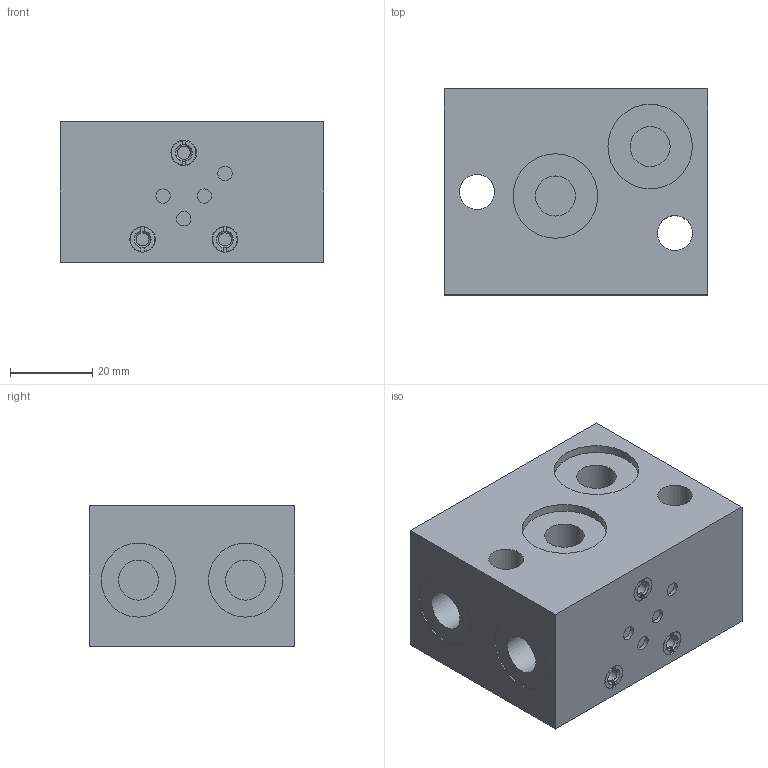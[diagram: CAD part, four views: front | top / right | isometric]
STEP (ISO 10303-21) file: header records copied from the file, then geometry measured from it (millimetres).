
FILE_DESCRIPTION(('Bauteilbeschreibung','HiCAD-Model','HiCAD-STEP-TRANSLATION','Bauteilbeschreibung'),'2;1');
FILE_NAME('C:/_EIGENE_DATEN/DXF_STEP/AL_A03_3808.STP','2008-09-18T14:11:26+00:00',('Konstrukteur'),('Konstrukteur Firma GmbH'),' HiCAD neXt 2007, Step 3.1.1212.3C ','HiCAD neXt 2007','confidential');
FILE_SCHEMA(('AUTOMOTIVE_DESIGN { 1 2 10303 214 0 1 1 1 }'));
Length unit declared in the file: millimetre
Products named in the file (13): AL_A03_3808; AL_A03; D906AF11; D906AF110; D214401D; D214401D0; DIN_13; D214401D1; D214401D2; DIN013; D214401D3; D214401D4; DIN0130
Assembly tree (12 placements, depth 5):
  AL_A03_3808
    AL_A03
      D906AF11
      D906AF110
        D214401D
        D214401D0
          DIN_13
        D214401D1
        D214401D2
          DIN013
        D214401D3
        D214401D4
          DIN0130
Bounding box: 64 x 50 x 34 mm (x, y, z)
Volume: 99587.7 mm3; surface area: 19540.4 mm2
Topology: 7 solids, 7 shells, 126 faces, 322 edges, 218 vertices
Faces by surface type: plane 68, cylinder 31, cone 27
Full cylindrical faces by diameter (mm): 3.141 x3, 3.5 x4, 4 x6, 6.2 x3, 6.5 x3, 8.5 x2, 9.728 x6, 18 x2, 20.5 x2
Entity records: 3883 total; most frequent: CARTESIAN_POINT 870, DIRECTION 628, ORIENTED_EDGE 496, AXIS2_PLACEMENT_3D 266, EDGE_CURVE 248, EDGE_LOOP 190, VERTEX_POINT 184, ADVANCED_FACE 126
